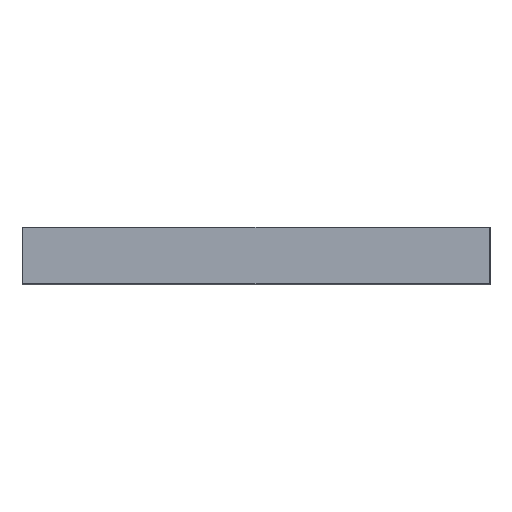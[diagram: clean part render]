
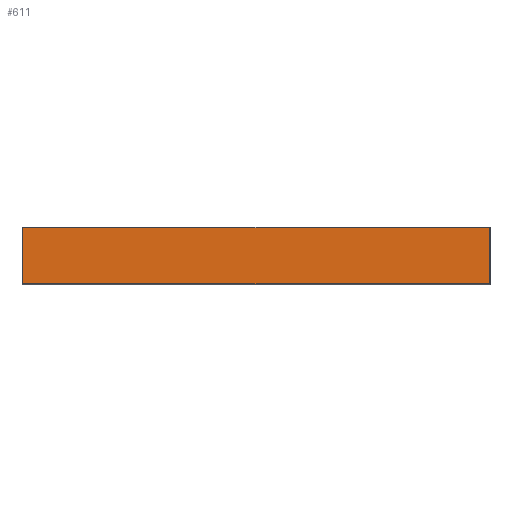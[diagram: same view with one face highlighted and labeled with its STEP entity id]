
A CAD part, top view. The second image highlights one B-rep face of the part: STEP entity #611.
In plain terms, the highlighted planar face has unit normal (0, 0, 1).
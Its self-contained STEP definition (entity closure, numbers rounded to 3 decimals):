
#361=DIRECTION('',(-1.,0.,0.));
#362=VECTOR('',#361,491.);
#363=CARTESIAN_POINT('',(245.5,29.5,3.));
#364=LINE('',#363,#362);
#368=DIRECTION('',(0.,1.,0.));
#369=VECTOR('',#368,59.);
#370=CARTESIAN_POINT('',(245.5,-29.5,3.));
#371=LINE('',#370,#369);
#375=DIRECTION('',(1.,0.,0.));
#376=VECTOR('',#375,491.);
#377=CARTESIAN_POINT('',(-245.5,-29.5,3.));
#378=LINE('',#377,#376);
#382=DIRECTION('',(0.,-1.,0.));
#383=VECTOR('',#382,59.);
#384=CARTESIAN_POINT('',(-245.5,29.5,3.));
#385=LINE('',#384,#383);
#400=CARTESIAN_POINT('',(245.5,29.5,3.));
#401=CARTESIAN_POINT('',(-245.5,29.5,3.));
#402=VERTEX_POINT('',#400);
#403=VERTEX_POINT('',#401);
#424=CARTESIAN_POINT('',(-245.5,-29.5,3.));
#425=CARTESIAN_POINT('',(245.5,-29.5,3.));
#426=VERTEX_POINT('',#424);
#427=VERTEX_POINT('',#425);
#599=CARTESIAN_POINT('',(0.,0.,3.));
#600=DIRECTION('',(0.,0.,1.));
#601=DIRECTION('',(1.,0.,0.));
#602=AXIS2_PLACEMENT_3D('',#599,#600,#601);
#603=PLANE('',#602);
#604=ORIENTED_EDGE('',*,*,#482,.F.);
#605=ORIENTED_EDGE('',*,*,#498,.F.);
#607=ORIENTED_EDGE('',*,*,#606,.F.);
#608=ORIENTED_EDGE('',*,*,#592,.F.);
#609=EDGE_LOOP('',(#604,#605,#607,#608));
#610=FACE_OUTER_BOUND('',#609,.F.);
#482=EDGE_CURVE('',#402,#403,#364,.T.);
#498=EDGE_CURVE('',#427,#402,#371,.T.);
#592=EDGE_CURVE('',#403,#426,#385,.T.);
#606=EDGE_CURVE('',#426,#427,#378,.T.);
#611=ADVANCED_FACE('',(#610),#603,.T.);
